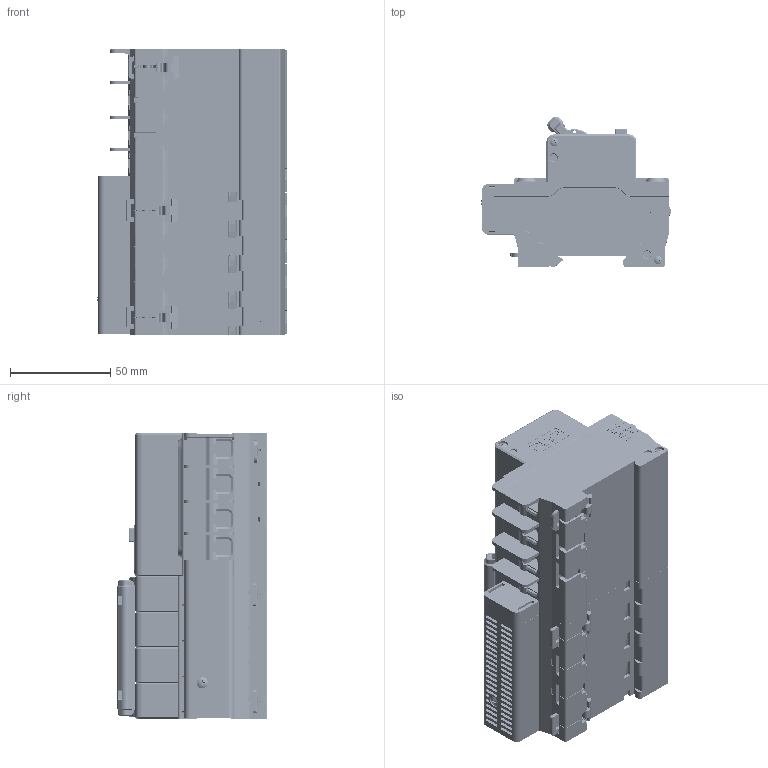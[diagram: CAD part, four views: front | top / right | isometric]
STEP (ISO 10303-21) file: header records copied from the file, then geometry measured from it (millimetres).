
FILE_DESCRIPTION((''),'2;1');
FILE_NAME('CDBHLE_4P_63_22580128_SW0001','2019-12-21T',('dong.huang'),(''),'PRO/ENGINEER BY PARAMETRIC TECHNOLOGY CORPORATION, 2015440','PRO/ENGINEER BY PARAMETRIC TECHNOLOGY CORPORATION, 2015440','');
FILE_SCHEMA(('CONFIG_CONTROL_DESIGN'));
Products named in the file (1): CDBHLE_4P_63_22580128_SW0001
Bounding box: 94.38 x 75.08 x 141.95 mm (x, y, z)
Volume: 470690.7 mm3; surface area: 181294.7 mm2
Topology: 5 solids, 15 shells, 16069 faces, 45048 edges, 29611 vertices
Faces by surface type: plane 10974, cylinder 2986, extrusion 1256, cone 537, torus 160, sphere 91, bspline 65
Entity records: 524610 total; most frequent: CARTESIAN_POINT 111075, ORIENTED_EDGE 89900, DIRECTION 79328, EDGE_CURVE 44950, VECTOR 35248, LINE 33992, VERTEX_POINT 29611, AXIS2_PLACEMENT_3D 22040
